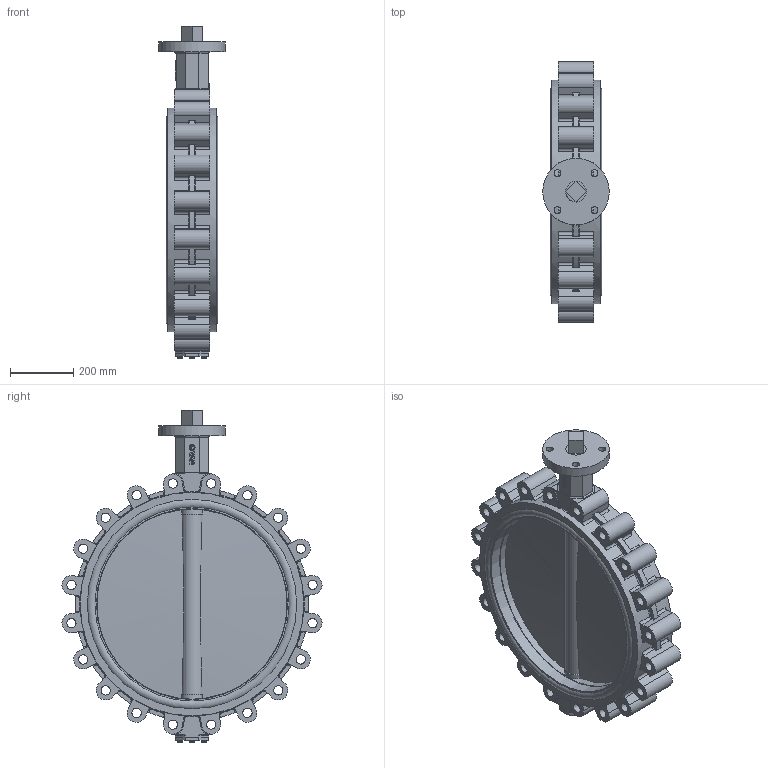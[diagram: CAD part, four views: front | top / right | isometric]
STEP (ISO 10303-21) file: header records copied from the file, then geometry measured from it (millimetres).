
FILE_DESCRIPTION(('STEP AP242'), '1');
FILE_NAME('Ïîâîðîòíûé çàòâîð ïîä ýëåêòðîïðèâîä', '', ('UNSPECIFIED'), ('UNSPECIFIED'), 'C3D Converter', 'C3D Toolkit', '');
FILE_SCHEMA(('AP242_MANAGED_MODEL_BASED_3D_ENGINEERING_MIM_LF { 1 0 10303 442 1 1 4 }'));
Length unit declared in the file: millimetre
Products named in the file (8): П
Assembly tree (11 placements, depth 2):
  (unnamed)
    (unnamed)
    П  x2
    (unnamed)
    (unnamed)
    (unnamed)
    (unnamed)
    (unnamed)  x4
Bounding box: 210 x 820.51 x 1047 mm (x, y, z)
Volume: 37947684.5 mm3; surface area: 3367350.2 mm2
Topology: 11 solids, 11 shells, 997 faces, 2545 edges, 1615 vertices
Faces by surface type: plane 363, cylinder 302, extrusion 175, torus 134, cone 19, sphere 4
Full cylindrical faces by diameter (mm): 8 x4, 10 x12, 16 x8, 18.845 x1, 22 x4, 29.211 x20, 46 x5, 50.6 x1, 65.054 x5, 73.15 x4, 210 x1, 600 x1, 602.5 x2, 612.5 x2, 636.25 x4, 660 x4, 705.28 x2
Entity records: 37496 total; most frequent: CARTESIAN_POINT 12766, ORIENTED_EDGE 4618, DIRECTION 4303, EDGE_CURVE 2309, AXIS2_PLACEMENT_3D 1548, VERTEX_POINT 1523, VECTOR 1207, EDGE_LOOP 1120
